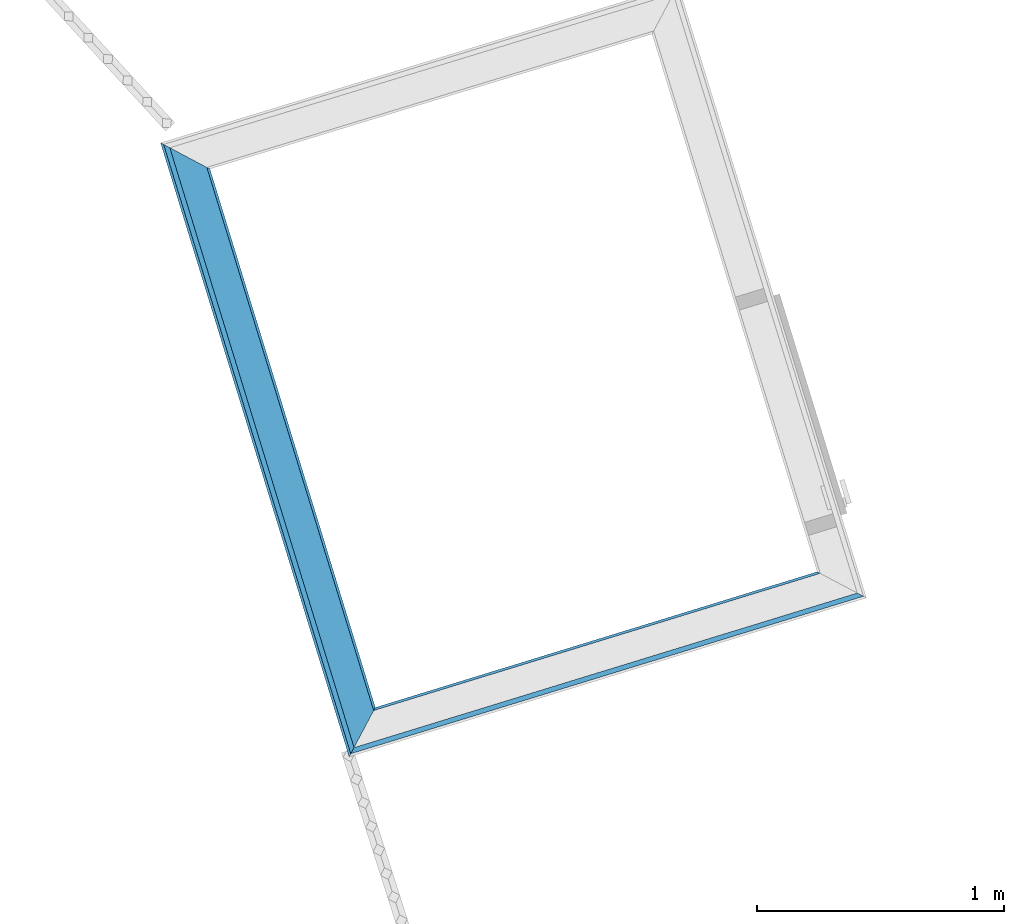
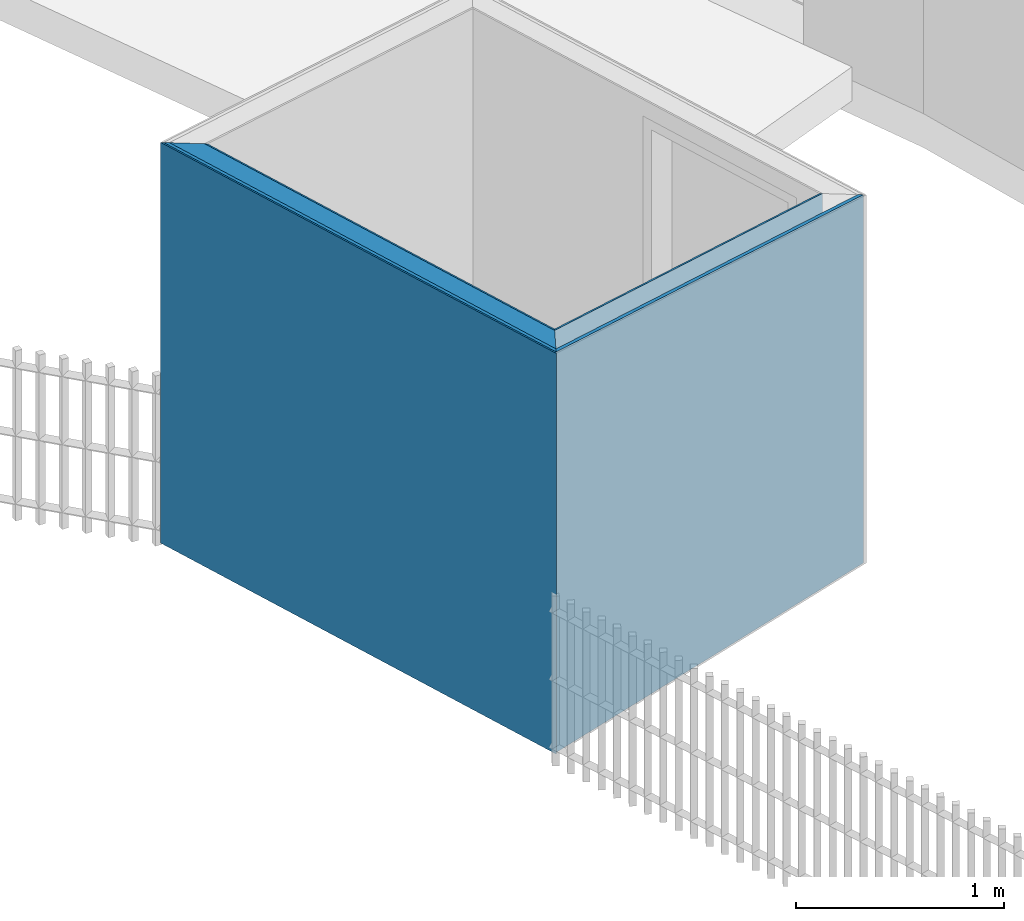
# One storey, part 129 of 195: 6 building element parts, 2 elements without a shape of their own.
"""IFC2X3 building model written with IfcOpenShell, lengths in metres."""

from ifc_helpers import new_model, entity, si_unit, converted_unit, derived_unit, money_unit, direction, frame, origin_with_axes, place, context, subcontext, project, spatial, polyline, outline, extrude, boolean, faceted_brep, material, type_object, element, aggregate, save


model = new_model("IFC2X3")

# Units and contexts
model_context = context("Model", 3, precision=1e-05, world=origin_with_axes(), true_north=direction((0.0, 1.0)))
body_context = subcontext(model_context, "Body", "Model", "MODEL_VIEW")
ifc_project = project(units=[si_unit("LENGTHUNIT", "METRE"), si_unit("AREAUNIT", "SQUARE_METRE"), si_unit("VOLUMEUNIT", "CUBIC_METRE"), converted_unit("PLANEANGLEUNIT", "DEGREE", entity("IfcPlaneAngleMeasure", 0.0174532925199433), si_unit("PLANEANGLEUNIT", "RADIAN"), dimensions=[0, 0, 0, 0, 0, 0, 0]), money_unit("CHF"), converted_unit("TIMEUNIT", "Year", entity("IfcTimeMeasure", 31557600.0), si_unit("TIMEUNIT", "SECOND"), dimensions=[0, 0, 1, 0, 0, 0, 0]), si_unit("MASSUNIT", "GRAM", prefix="KILO"), si_unit("THERMODYNAMICTEMPERATUREUNIT", "DEGREE_CELSIUS"), si_unit("LUMINOUSINTENSITYUNIT", "LUMEN"), si_unit("ENERGYUNIT", "JOULE", prefix="MEGA"), derived_unit("THERMALCONDUCTANCEUNIT", [(si_unit("POWERUNIT", "WATT"), 1), (si_unit("LENGTHUNIT", "METRE"), -1), (si_unit("THERMODYNAMICTEMPERATUREUNIT", "KELVIN"), -1)]), derived_unit("SPECIFICHEATCAPACITYUNIT", [(si_unit("ENERGYUNIT", "JOULE"), 1), (si_unit("MASSUNIT", "GRAM", prefix="KILO"), -1), (si_unit("THERMODYNAMICTEMPERATUREUNIT", "KELVIN"), -1)]), derived_unit("MASSDENSITYUNIT", [(si_unit("MASSUNIT", "GRAM", prefix="KILO"), 1), (si_unit("VOLUMEUNIT", "CUBIC_METRE"), -1)])], contexts=[model_context])

# Site, building, storey
site_placement = place(None, origin_with_axes())
site = spatial("IfcSite", under=ifc_project, at=site_placement, Name="Site", CompositionType="ELEMENT")
building_placement = place(site_placement, origin_with_axes())
building = spatial("IfcBuilding", under=site, at=building_placement, Name="Bâtiment", CompositionType="ELEMENT")
storey_placement = place(building_placement, origin_with_axes())
storey = spatial("IfcBuildingStorey", under=building, at=storey_placement, Name="rdc", CompositionType="ELEMENT", Elevation=0.0)

# Wall, building element parts
wall_type = type_object("IfcWallType", Name="1/Ossatur bois 160   non isol 160", PredefinedType="NOTDEFINED")
wall_1_placement = place(storey_placement, frame((9584.25368683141, -1050.212626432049, 57.7), z_axis=(0.0, 0.0, 1.0), x_axis=(-0.955928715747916, -0.2935988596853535, 0.0)))
wall_1 = element("IfcWall", 1, at=wall_1_placement, inside=storey, type_object=wall_type, Name="Mur-111")
ifc_material_1 = material(Name="Sans Trame 296962763")
building_element_part_1_placement = place(wall_1_placement, origin_with_axes())
building_element_part_1 = element("IfcBuildingElementPart", 2, at=building_element_part_1_placement, material=ifc_material_1, Name="Sans Trame 296962763", context=body_context, shape_type="CSG", body=[
    boolean("DIFFERENCE", boolean("DIFFERENCE", boolean("DIFFERENCE", boolean("DIFFERENCE", extrude(outline(polyline([(0.0, -0.160000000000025), (2.193108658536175, -0.160000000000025), (2.193108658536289, -0.1499999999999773), (0.0, -0.1500000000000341), (0.0, -0.160000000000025)])), origin_with_axes(), (0.0, 0.0, 1.0), 2.75), faceted_brep([(2.043108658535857, -0.1499999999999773, 0.0), (2.043108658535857, -0.1499999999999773, 2.342973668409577), (0.1499999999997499, -0.1500000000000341, 2.17734812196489), (0.1499999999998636, -0.1500000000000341, 0.0), (0.0, -0.1500000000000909, 0.0), (0.0, -0.1500000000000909, 2.75), (2.193108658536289, -0.1499999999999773, 2.75), (2.193108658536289, -0.1499999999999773, 0.0), (2.033108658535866, -0.1599999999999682, 0.0), (2.033108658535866, -0.1599999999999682, 2.342098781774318), (0.1599999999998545, -0.160000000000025, 2.178223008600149), (0.1599999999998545, -0.160000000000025, 0.0), (0.0, -0.160000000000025, 0.0), (0.0, -0.160000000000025, 2.75), (2.193108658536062, -0.160000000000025, 2.75), (2.193108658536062, -0.160000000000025, 0.0)], [[[0, 1, 2, 3, 4, 5, 6, 7]], [[8, 9, 1, 0]], [[2, 1, 9, 10]], [[3, 2, 10, 11]], [[3, 11, 12, 4]], [[5, 4, 12, 13]], [[5, 13, 14, 6]], [[14, 15, 7, 6]], [[8, 0, 7, 15]], [[9, 8, 15, 14, 13, 12, 11, 10]]])), faceted_brep([(2.163108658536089, -0.02999999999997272, 0.0), (2.163108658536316, -0.02999999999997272, 2.353472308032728), (0.02999999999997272, -0.0300000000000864, 2.166849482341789), (0.02999999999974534, -0.0300000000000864, 0.0), (0.0, -0.03000000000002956, 0.0), (0.0, -0.03000000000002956, 2.75), (2.193108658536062, -0.03000000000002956, 2.75), (2.193108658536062, -0.03000000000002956, 0.0), (2.043108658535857, -0.1499999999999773, 0.0), (2.043108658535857, -0.1499999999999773, 2.342973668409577), (0.1499999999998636, -0.1500000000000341, 2.17734812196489), (0.1499999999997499, -0.1499999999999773, 0.0), (0.0, -0.1500000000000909, 0.0), (0.0, -0.1500000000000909, 2.75), (2.193108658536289, -0.1499999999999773, 2.75), (2.193108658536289, -0.1499999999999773, 0.0)], [[[0, 1, 2, 3, 4, 5, 6, 7]], [[8, 9, 1, 0]], [[2, 1, 9, 10]], [[3, 2, 10, 11]], [[3, 11, 12, 4]], [[5, 4, 12, 13]], [[5, 13, 14, 6]], [[14, 15, 7, 6]], [[8, 0, 7, 15]], [[9, 8, 15, 14, 13, 12, 11, 10]]])), faceted_brep([(2.183108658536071, -0.009999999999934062, 0.0), (2.183108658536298, -0.009999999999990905, 2.355222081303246), (0.009999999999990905, -0.01000000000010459, 2.165099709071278), (0.009999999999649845, -0.01000000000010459, 0.0), (0.0, -0.01000000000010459, 0.0), (0.0, -0.01000000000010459, 2.75), (2.193108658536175, -0.01000000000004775, 2.75), (2.193108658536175, -0.01000000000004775, 0.0), (2.163108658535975, -0.02999999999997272, 0.0), (2.163108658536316, -0.02999999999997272, 2.353472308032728), (0.02999999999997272, -0.0300000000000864, 2.166849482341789), (0.02999999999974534, -0.0300000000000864, 0.0), (0.0, -0.03000000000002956, 0.0), (0.0, -0.03000000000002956, 2.75), (2.193108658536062, -0.03000000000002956, 2.75), (2.193108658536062, -0.03000000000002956, 0.0)], [[[0, 1, 2, 3, 4, 5, 6, 7]], [[8, 9, 1, 0]], [[2, 1, 9, 10]], [[3, 2, 10, 11]], [[3, 11, 12, 4]], [[5, 4, 12, 13]], [[5, 13, 14, 6]], [[14, 15, 7, 6]], [[8, 0, 7, 15]], [[9, 8, 15, 14, 13, 12, 11, 10]]])), faceted_brep([(2.193108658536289, 0.0, 2.356096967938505), (0.0, 0.0, 2.164224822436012), (0.0, 0.0, 2.75), (2.193108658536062, 0.0, 2.75), (2.183108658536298, -0.009999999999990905, 2.355222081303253), (0.009999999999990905, -0.01000000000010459, 2.165099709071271), (0.0, 0.0, 0.0), (0.0, -0.01000000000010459, 0.0), (0.0, -0.01000000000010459, 2.75), (2.193108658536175, -0.01000000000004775, 2.75), (2.193108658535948, 0.0, 0.0), (2.193108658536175, -0.01000000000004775, 0.0), (2.183108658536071, -0.01000000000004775, 0.0), (0.009999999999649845, -0.01000000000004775, 0.0)], [[[0, 1, 2, 3]], [[1, 0, 4, 5]], [[1, 6, 7, 8, 2]], [[2, 8, 9, 3]], [[10, 0, 3, 9, 11]], [[12, 4, 0, 10]], [[4, 12, 11, 9, 8, 7, 13, 5]], [[6, 1, 5, 13]], [[6, 13, 7]], [[12, 10, 11]]])),
])
ifc_material_2 = material(Name="Lame d'air 323202302")
building_element_part_2_placement = place(wall_1_placement, origin_with_axes())
building_element_part_2 = element("IfcBuildingElementPart", 3, at=building_element_part_2_placement, material=ifc_material_2, Name="Lame d'air 323202302", context=body_context, shape_type="CSG", body=[
    boolean("DIFFERENCE", boolean("DIFFERENCE", boolean("DIFFERENCE", boolean("DIFFERENCE", extrude(outline(polyline([(0.0, -0.03000000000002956), (2.193108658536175, -0.02999999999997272), (2.193108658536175, -0.009999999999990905), (0.0, -0.01000000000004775), (0.0, -0.03000000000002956)])), origin_with_axes(), (0.0, 0.0, 1.0), 2.75), faceted_brep([(2.043108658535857, -0.1499999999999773, 0.0), (2.043108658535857, -0.1499999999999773, 2.342973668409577), (0.1499999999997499, -0.1500000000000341, 2.17734812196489), (0.1499999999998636, -0.1500000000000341, 0.0), (0.0, -0.1500000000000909, 0.0), (0.0, -0.1500000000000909, 2.75), (2.193108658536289, -0.1499999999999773, 2.75), (2.193108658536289, -0.1499999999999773, 0.0), (2.033108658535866, -0.1599999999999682, 0.0), (2.033108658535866, -0.1599999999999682, 2.342098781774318), (0.1599999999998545, -0.160000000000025, 2.178223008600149), (0.1599999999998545, -0.160000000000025, 0.0), (0.0, -0.160000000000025, 0.0), (0.0, -0.160000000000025, 2.75), (2.193108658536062, -0.160000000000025, 2.75), (2.193108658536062, -0.160000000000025, 0.0)], [[[0, 1, 2, 3, 4, 5, 6, 7]], [[8, 9, 1, 0]], [[2, 1, 9, 10]], [[3, 2, 10, 11]], [[3, 11, 12, 4]], [[5, 4, 12, 13]], [[5, 13, 14, 6]], [[14, 15, 7, 6]], [[8, 0, 7, 15]], [[9, 8, 15, 14, 13, 12, 11, 10]]])), faceted_brep([(2.163108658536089, -0.02999999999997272, 0.0), (2.163108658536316, -0.02999999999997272, 2.353472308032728), (0.02999999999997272, -0.0300000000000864, 2.166849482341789), (0.02999999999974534, -0.0300000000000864, 0.0), (0.0, -0.03000000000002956, 0.0), (0.0, -0.03000000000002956, 2.75), (2.193108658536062, -0.03000000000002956, 2.75), (2.193108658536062, -0.03000000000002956, 0.0), (2.043108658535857, -0.1499999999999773, 0.0), (2.043108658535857, -0.1499999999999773, 2.342973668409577), (0.1499999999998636, -0.1500000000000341, 2.17734812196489), (0.1499999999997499, -0.1499999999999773, 0.0), (0.0, -0.1500000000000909, 0.0), (0.0, -0.1500000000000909, 2.75), (2.193108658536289, -0.1499999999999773, 2.75), (2.193108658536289, -0.1499999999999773, 0.0)], [[[0, 1, 2, 3, 4, 5, 6, 7]], [[8, 9, 1, 0]], [[2, 1, 9, 10]], [[3, 2, 10, 11]], [[3, 11, 12, 4]], [[5, 4, 12, 13]], [[5, 13, 14, 6]], [[14, 15, 7, 6]], [[8, 0, 7, 15]], [[9, 8, 15, 14, 13, 12, 11, 10]]])), faceted_brep([(2.183108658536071, -0.009999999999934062, 0.0), (2.183108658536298, -0.009999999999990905, 2.355222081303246), (0.009999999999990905, -0.01000000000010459, 2.165099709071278), (0.009999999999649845, -0.01000000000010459, 0.0), (0.0, -0.01000000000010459, 0.0), (0.0, -0.01000000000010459, 2.75), (2.193108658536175, -0.01000000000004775, 2.75), (2.193108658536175, -0.01000000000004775, 0.0), (2.163108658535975, -0.02999999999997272, 0.0), (2.163108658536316, -0.02999999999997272, 2.353472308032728), (0.02999999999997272, -0.0300000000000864, 2.166849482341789), (0.02999999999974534, -0.0300000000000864, 0.0), (0.0, -0.03000000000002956, 0.0), (0.0, -0.03000000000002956, 2.75), (2.193108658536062, -0.03000000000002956, 2.75), (2.193108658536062, -0.03000000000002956, 0.0)], [[[0, 1, 2, 3, 4, 5, 6, 7]], [[8, 9, 1, 0]], [[2, 1, 9, 10]], [[3, 2, 10, 11]], [[3, 11, 12, 4]], [[5, 4, 12, 13]], [[5, 13, 14, 6]], [[14, 15, 7, 6]], [[8, 0, 7, 15]], [[9, 8, 15, 14, 13, 12, 11, 10]]])), faceted_brep([(2.193108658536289, 0.0, 2.356096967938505), (0.0, 0.0, 2.164224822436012), (0.0, 0.0, 2.75), (2.193108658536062, 0.0, 2.75), (2.183108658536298, -0.009999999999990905, 2.355222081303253), (0.009999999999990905, -0.01000000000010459, 2.165099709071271), (0.0, 0.0, 0.0), (0.0, -0.01000000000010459, 0.0), (0.0, -0.01000000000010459, 2.75), (2.193108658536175, -0.01000000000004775, 2.75), (2.193108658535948, 0.0, 0.0), (2.193108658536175, -0.01000000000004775, 0.0), (2.183108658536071, -0.01000000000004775, 0.0), (0.009999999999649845, -0.01000000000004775, 0.0)], [[[0, 1, 2, 3]], [[1, 0, 4, 5]], [[1, 6, 7, 8, 2]], [[2, 8, 9, 3]], [[10, 0, 3, 9, 11]], [[12, 4, 0, 10]], [[4, 12, 11, 9, 8, 7, 13, 5]], [[6, 1, 5, 13]], [[6, 13, 7]], [[12, 10, 11]]])),
])
aggregate(wall_1, [building_element_part_1, building_element_part_2])

wall_2_placement = place(storey_placement, frame((9582.15723128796, -1050.856520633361, 57.7), z_axis=(0.0, 0.0, 1.0), x_axis=(-0.293598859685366, 0.9559287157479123, 0.0)))
wall_2 = element("IfcWall", 4, at=wall_2_placement, inside=storey, type_object=wall_type, Name="Mur-108")
building_element_part_3_placement = place(wall_2_placement, origin_with_axes())
building_element_part_3 = element("IfcBuildingElementPart", 5, at=building_element_part_3_placement, material=ifc_material_1, Name="Sans Trame 296962763", context=body_context, shape_type="CSG", body=[
    boolean("DIFFERENCE", boolean("DIFFERENCE", boolean("DIFFERENCE", boolean("DIFFERENCE", extrude(outline(polyline([(0.0, -0.1599999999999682), (2.602979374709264, -0.1599999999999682), (2.602979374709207, -0.1500000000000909), (0.0, -0.1500000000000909), (0.0, -0.1599999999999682)])), origin_with_axes(), (0.0, 0.0, 1.0), 2.75), faceted_brep([(2.442703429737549, -0.1600000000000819, 2.342098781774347), (2.442703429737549, -0.1600000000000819, 0.0), (2.602979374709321, -0.1599999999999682, 0.0), (2.602979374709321, -0.1599999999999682, 2.75), (0.0, -0.1599999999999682, 2.75), (0.0, -0.1599999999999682, 0.0), (0.1600000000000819, -0.1600000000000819, 0.0), (0.1600000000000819, -0.1600000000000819, 2.342098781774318), (2.452720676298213, -0.1500000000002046, 2.342973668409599), (2.452720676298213, -0.1500000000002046, 0.0), (2.602979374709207, -0.1500000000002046, 0.0), (2.602979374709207, -0.1500000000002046, 2.75), (0.0, -0.1500000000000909, 2.75), (0.0, -0.1500000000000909, 0.0), (0.1500000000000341, -0.1500000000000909, 0.0), (0.1500000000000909, -0.1500000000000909, 2.342973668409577)], [[[0, 1, 2, 3, 4, 5, 6, 7]], [[1, 0, 8, 9]], [[1, 9, 10, 2]], [[3, 2, 10, 11]], [[12, 4, 3, 11]], [[12, 13, 5, 4]], [[14, 6, 5, 13]], [[7, 6, 14, 15]], [[0, 7, 15, 8]], [[15, 14, 13, 12, 11, 10, 9, 8]]])), faceted_brep([(2.452720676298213, -0.1500000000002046, 2.342973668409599), (2.452720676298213, -0.1500000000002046, 0.0), (2.602979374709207, -0.1500000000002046, 0.0), (2.602979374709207, -0.1500000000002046, 2.75), (0.0, -0.1500000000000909, 2.75), (0.0, -0.1500000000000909, 0.0), (0.1499999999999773, -0.1499999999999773, 0.0), (0.1500000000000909, -0.1500000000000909, 2.342973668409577), (2.572927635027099, -0.0300000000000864, 2.353472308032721), (2.572927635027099, -0.0300000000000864, 0.0), (2.602979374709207, -0.02999999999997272, 0.0), (2.602979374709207, -0.02999999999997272, 2.75), (0.0, -0.02999999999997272, 2.75), (0.0, -0.02999999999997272, 0.0), (0.02999999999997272, -0.02999999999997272, 0.0), (0.03000000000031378, -0.0300000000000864, 2.353472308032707)], [[[0, 1, 2, 3, 4, 5, 6, 7]], [[1, 0, 8, 9]], [[1, 9, 10, 2]], [[3, 2, 10, 11]], [[12, 4, 3, 11]], [[12, 13, 5, 4]], [[14, 6, 5, 13]], [[7, 6, 14, 15]], [[0, 7, 15, 8]], [[15, 14, 13, 12, 11, 10, 9, 8]]])), faceted_brep([(2.572927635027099, -0.0300000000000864, 2.353472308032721), (2.572927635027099, -0.0300000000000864, 0.0), (2.602979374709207, -0.02999999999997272, 0.0), (2.602979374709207, -0.02999999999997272, 2.75), (0.0, -0.02999999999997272, 2.75), (0.0, -0.02999999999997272, 0.0), (0.02999999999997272, -0.02999999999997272, 0.0), (0.03000000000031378, -0.0300000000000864, 2.353472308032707), (2.592962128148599, -0.009999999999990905, 2.355222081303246), (2.592962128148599, -0.009999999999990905, 0.0), (2.602979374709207, -0.009999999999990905, 0.0), (2.602979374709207, -0.009999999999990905, 2.75), (0.0, -0.009999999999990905, 2.75), (0.0, -0.009999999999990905, 0.0), (0.009999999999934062, -0.009999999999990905, 0.0), (0.01000000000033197, -0.009999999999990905, 2.355222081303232)], [[[0, 1, 2, 3, 4, 5, 6, 7]], [[1, 0, 8, 9]], [[1, 9, 10, 2]], [[3, 2, 10, 11]], [[12, 4, 3, 11]], [[12, 13, 5, 4]], [[14, 6, 5, 13]], [[7, 6, 14, 15]], [[0, 7, 15, 8]], [[15, 14, 13, 12, 11, 10, 9, 8]]])), faceted_brep([(2.592962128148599, -0.009999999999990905, 2.355222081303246), (2.592962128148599, -0.009999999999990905, 0.0), (2.602979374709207, -0.009999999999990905, 0.0), (2.602979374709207, -0.009999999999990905, 2.75), (0.0, -0.009999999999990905, 2.75), (0.0, -0.009999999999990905, 0.0), (0.009999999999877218, -0.009999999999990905, 0.0), (0.01000000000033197, -0.009999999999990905, 2.355222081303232), (2.602979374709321, 0.0, 2.356096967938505), (2.602979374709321, 0.0, 0.0), (2.602979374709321, 0.0, 2.75), (0.0, 0.0, 2.75), (0.0, 0.0, 2.356096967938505), (0.0, 0.0, 0.0)], [[[0, 1, 2, 3, 4, 5, 6, 7]], [[1, 0, 8, 9]], [[1, 9, 2]], [[9, 8, 10, 3, 2]], [[11, 4, 3, 10]], [[12, 13, 5, 4, 11]], [[13, 6, 5]], [[7, 6, 13, 12]], [[0, 7, 12, 8]], [[8, 12, 11, 10]]])),
])
ifc_material_3 = material(Name="Lame d'air 275581439")
building_element_part_4_placement = place(wall_2_placement, origin_with_axes())
building_element_part_4 = element("IfcBuildingElementPart", 6, at=building_element_part_4_placement, material=ifc_material_3, Name="Lame d'air 275581439", context=body_context, shape_type="CSG", body=[
    boolean("DIFFERENCE", boolean("DIFFERENCE", boolean("DIFFERENCE", boolean("DIFFERENCE", extrude(outline(polyline([(0.0, -0.1500000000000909), (2.602979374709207, -0.1500000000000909), (2.60297937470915, -0.0300000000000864), (0.0, -0.0300000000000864), (0.0, -0.1500000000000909)])), origin_with_axes(), (0.0, 0.0, 1.0), 2.75), faceted_brep([(2.442703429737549, -0.1600000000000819, 2.342098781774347), (2.442703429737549, -0.1600000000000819, 0.0), (2.602979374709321, -0.1599999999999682, 0.0), (2.602979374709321, -0.1599999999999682, 2.75), (0.0, -0.1599999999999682, 2.75), (0.0, -0.1599999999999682, 0.0), (0.1600000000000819, -0.1600000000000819, 0.0), (0.1600000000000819, -0.1600000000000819, 2.342098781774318), (2.452720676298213, -0.1500000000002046, 2.342973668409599), (2.452720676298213, -0.1500000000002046, 0.0), (2.602979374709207, -0.1500000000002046, 0.0), (2.602979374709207, -0.1500000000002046, 2.75), (0.0, -0.1500000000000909, 2.75), (0.0, -0.1500000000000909, 0.0), (0.1500000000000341, -0.1500000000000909, 0.0), (0.1500000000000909, -0.1500000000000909, 2.342973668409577)], [[[0, 1, 2, 3, 4, 5, 6, 7]], [[1, 0, 8, 9]], [[1, 9, 10, 2]], [[3, 2, 10, 11]], [[12, 4, 3, 11]], [[12, 13, 5, 4]], [[14, 6, 5, 13]], [[7, 6, 14, 15]], [[0, 7, 15, 8]], [[15, 14, 13, 12, 11, 10, 9, 8]]])), faceted_brep([(2.452720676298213, -0.1500000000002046, 2.342973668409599), (2.452720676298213, -0.1500000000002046, 0.0), (2.602979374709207, -0.1500000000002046, 0.0), (2.602979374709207, -0.1500000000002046, 2.75), (0.0, -0.1500000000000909, 2.75), (0.0, -0.1500000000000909, 0.0), (0.1499999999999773, -0.1499999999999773, 0.0), (0.1500000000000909, -0.1500000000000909, 2.342973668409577), (2.572927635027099, -0.0300000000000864, 2.353472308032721), (2.572927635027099, -0.0300000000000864, 0.0), (2.602979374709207, -0.02999999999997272, 0.0), (2.602979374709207, -0.02999999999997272, 2.75), (0.0, -0.02999999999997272, 2.75), (0.0, -0.02999999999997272, 0.0), (0.02999999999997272, -0.02999999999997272, 0.0), (0.03000000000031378, -0.0300000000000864, 2.353472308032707)], [[[0, 1, 2, 3, 4, 5, 6, 7]], [[1, 0, 8, 9]], [[1, 9, 10, 2]], [[3, 2, 10, 11]], [[12, 4, 3, 11]], [[12, 13, 5, 4]], [[14, 6, 5, 13]], [[7, 6, 14, 15]], [[0, 7, 15, 8]], [[15, 14, 13, 12, 11, 10, 9, 8]]])), faceted_brep([(2.572927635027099, -0.0300000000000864, 2.353472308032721), (2.572927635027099, -0.0300000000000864, 0.0), (2.602979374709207, -0.02999999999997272, 0.0), (2.602979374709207, -0.02999999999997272, 2.75), (0.0, -0.02999999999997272, 2.75), (0.0, -0.02999999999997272, 0.0), (0.02999999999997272, -0.02999999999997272, 0.0), (0.03000000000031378, -0.0300000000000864, 2.353472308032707), (2.592962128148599, -0.009999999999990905, 2.355222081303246), (2.592962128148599, -0.009999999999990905, 0.0), (2.602979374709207, -0.009999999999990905, 0.0), (2.602979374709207, -0.009999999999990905, 2.75), (0.0, -0.009999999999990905, 2.75), (0.0, -0.009999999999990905, 0.0), (0.009999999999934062, -0.009999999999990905, 0.0), (0.01000000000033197, -0.009999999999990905, 2.355222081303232)], [[[0, 1, 2, 3, 4, 5, 6, 7]], [[1, 0, 8, 9]], [[1, 9, 10, 2]], [[3, 2, 10, 11]], [[12, 4, 3, 11]], [[12, 13, 5, 4]], [[14, 6, 5, 13]], [[7, 6, 14, 15]], [[0, 7, 15, 8]], [[15, 14, 13, 12, 11, 10, 9, 8]]])), faceted_brep([(2.592962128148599, -0.009999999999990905, 2.355222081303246), (2.592962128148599, -0.009999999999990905, 0.0), (2.602979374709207, -0.009999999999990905, 0.0), (2.602979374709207, -0.009999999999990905, 2.75), (0.0, -0.009999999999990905, 2.75), (0.0, -0.009999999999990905, 0.0), (0.009999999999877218, -0.009999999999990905, 0.0), (0.01000000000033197, -0.009999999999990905, 2.355222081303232), (2.602979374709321, 0.0, 2.356096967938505), (2.602979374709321, 0.0, 0.0), (2.602979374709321, 0.0, 2.75), (0.0, 0.0, 2.75), (0.0, 0.0, 2.356096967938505), (0.0, 0.0, 0.0)], [[[0, 1, 2, 3, 4, 5, 6, 7]], [[1, 0, 8, 9]], [[1, 9, 2]], [[9, 8, 10, 3, 2]], [[11, 4, 3, 10]], [[12, 13, 5, 4, 11]], [[13, 6, 5]], [[7, 6, 13, 12]], [[0, 7, 12, 8]], [[8, 12, 11, 10]]])),
])
ifc_material_4 = material(Name="Hachure solide 323202122")
building_element_part_5_placement = place(wall_2_placement, origin_with_axes())
building_element_part_5 = element("IfcBuildingElementPart", 7, at=building_element_part_5_placement, material=ifc_material_4, Name="Hachure solide 323202122", context=body_context, shape_type="CSG", body=[
    boolean("DIFFERENCE", boolean("DIFFERENCE", boolean("DIFFERENCE", boolean("DIFFERENCE", extrude(outline(polyline([(0.0, -0.009999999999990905), (2.602979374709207, -0.009999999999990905), (2.602979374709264, 0.0), (0.0, 0.0), (0.0, -0.009999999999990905)])), origin_with_axes(), (0.0, 0.0, 1.0), 2.75), faceted_brep([(2.442703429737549, -0.1600000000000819, 2.342098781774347), (2.442703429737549, -0.1600000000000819, 0.0), (2.602979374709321, -0.1599999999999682, 0.0), (2.602979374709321, -0.1599999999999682, 2.75), (0.0, -0.1599999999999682, 2.75), (0.0, -0.1599999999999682, 0.0), (0.1600000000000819, -0.1600000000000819, 0.0), (0.1600000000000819, -0.1600000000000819, 2.342098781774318), (2.452720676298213, -0.1500000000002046, 2.342973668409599), (2.452720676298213, -0.1500000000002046, 0.0), (2.602979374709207, -0.1500000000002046, 0.0), (2.602979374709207, -0.1500000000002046, 2.75), (0.0, -0.1500000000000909, 2.75), (0.0, -0.1500000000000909, 0.0), (0.1500000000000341, -0.1500000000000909, 0.0), (0.1500000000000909, -0.1500000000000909, 2.342973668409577)], [[[0, 1, 2, 3, 4, 5, 6, 7]], [[1, 0, 8, 9]], [[1, 9, 10, 2]], [[3, 2, 10, 11]], [[12, 4, 3, 11]], [[12, 13, 5, 4]], [[14, 6, 5, 13]], [[7, 6, 14, 15]], [[0, 7, 15, 8]], [[15, 14, 13, 12, 11, 10, 9, 8]]])), faceted_brep([(2.452720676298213, -0.1500000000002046, 2.342973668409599), (2.452720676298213, -0.1500000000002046, 0.0), (2.602979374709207, -0.1500000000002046, 0.0), (2.602979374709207, -0.1500000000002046, 2.75), (0.0, -0.1500000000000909, 2.75), (0.0, -0.1500000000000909, 0.0), (0.1499999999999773, -0.1499999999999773, 0.0), (0.1500000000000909, -0.1500000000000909, 2.342973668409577), (2.572927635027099, -0.0300000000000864, 2.353472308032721), (2.572927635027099, -0.0300000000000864, 0.0), (2.602979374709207, -0.02999999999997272, 0.0), (2.602979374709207, -0.02999999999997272, 2.75), (0.0, -0.02999999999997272, 2.75), (0.0, -0.02999999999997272, 0.0), (0.02999999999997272, -0.02999999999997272, 0.0), (0.03000000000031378, -0.0300000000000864, 2.353472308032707)], [[[0, 1, 2, 3, 4, 5, 6, 7]], [[1, 0, 8, 9]], [[1, 9, 10, 2]], [[3, 2, 10, 11]], [[12, 4, 3, 11]], [[12, 13, 5, 4]], [[14, 6, 5, 13]], [[7, 6, 14, 15]], [[0, 7, 15, 8]], [[15, 14, 13, 12, 11, 10, 9, 8]]])), faceted_brep([(2.572927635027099, -0.0300000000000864, 2.353472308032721), (2.572927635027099, -0.0300000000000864, 0.0), (2.602979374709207, -0.02999999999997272, 0.0), (2.602979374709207, -0.02999999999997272, 2.75), (0.0, -0.02999999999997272, 2.75), (0.0, -0.02999999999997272, 0.0), (0.02999999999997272, -0.02999999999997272, 0.0), (0.03000000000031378, -0.0300000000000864, 2.353472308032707), (2.592962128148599, -0.009999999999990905, 2.355222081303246), (2.592962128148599, -0.009999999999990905, 0.0), (2.602979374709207, -0.009999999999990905, 0.0), (2.602979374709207, -0.009999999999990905, 2.75), (0.0, -0.009999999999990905, 2.75), (0.0, -0.009999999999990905, 0.0), (0.009999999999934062, -0.009999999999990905, 0.0), (0.01000000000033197, -0.009999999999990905, 2.355222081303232)], [[[0, 1, 2, 3, 4, 5, 6, 7]], [[1, 0, 8, 9]], [[1, 9, 10, 2]], [[3, 2, 10, 11]], [[12, 4, 3, 11]], [[12, 13, 5, 4]], [[14, 6, 5, 13]], [[7, 6, 14, 15]], [[0, 7, 15, 8]], [[15, 14, 13, 12, 11, 10, 9, 8]]])), faceted_brep([(2.592962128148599, -0.009999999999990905, 2.355222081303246), (2.592962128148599, -0.009999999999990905, 0.0), (2.602979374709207, -0.009999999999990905, 0.0), (2.602979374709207, -0.009999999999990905, 2.75), (0.0, -0.009999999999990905, 2.75), (0.0, -0.009999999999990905, 0.0), (0.009999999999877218, -0.009999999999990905, 0.0), (0.01000000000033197, -0.009999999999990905, 2.355222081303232), (2.602979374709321, 0.0, 2.356096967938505), (2.602979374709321, 0.0, 0.0), (2.602979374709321, 0.0, 2.75), (0.0, 0.0, 2.75), (0.0, 0.0, 2.356096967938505), (0.0, 0.0, 0.0)], [[[0, 1, 2, 3, 4, 5, 6, 7]], [[1, 0, 8, 9]], [[1, 9, 2]], [[9, 8, 10, 3, 2]], [[11, 4, 3, 10]], [[12, 13, 5, 4, 11]], [[13, 6, 5]], [[7, 6, 13, 12]], [[0, 7, 12, 8]], [[8, 12, 11, 10]]])),
])
building_element_part_6_placement = place(wall_2_placement, origin_with_axes())
building_element_part_6 = element("IfcBuildingElementPart", 8, at=building_element_part_6_placement, material=ifc_material_2, Name="Lame d'air 323202302", context=body_context, shape_type="CSG", body=[
    boolean("DIFFERENCE", boolean("DIFFERENCE", boolean("DIFFERENCE", boolean("DIFFERENCE", extrude(outline(polyline([(0.0, -0.0300000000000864), (2.60297937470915, -0.0300000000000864), (2.602979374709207, -0.009999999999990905), (0.0, -0.009999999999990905), (0.0, -0.0300000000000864)])), origin_with_axes(), (0.0, 0.0, 1.0), 2.75), faceted_brep([(2.442703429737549, -0.1600000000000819, 2.342098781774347), (2.442703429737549, -0.1600000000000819, 0.0), (2.602979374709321, -0.1599999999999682, 0.0), (2.602979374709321, -0.1599999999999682, 2.75), (0.0, -0.1599999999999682, 2.75), (0.0, -0.1599999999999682, 0.0), (0.1600000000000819, -0.1600000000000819, 0.0), (0.1600000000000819, -0.1600000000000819, 2.342098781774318), (2.452720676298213, -0.1500000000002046, 2.342973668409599), (2.452720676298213, -0.1500000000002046, 0.0), (2.602979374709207, -0.1500000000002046, 0.0), (2.602979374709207, -0.1500000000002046, 2.75), (0.0, -0.1500000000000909, 2.75), (0.0, -0.1500000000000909, 0.0), (0.1500000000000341, -0.1500000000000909, 0.0), (0.1500000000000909, -0.1500000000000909, 2.342973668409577)], [[[0, 1, 2, 3, 4, 5, 6, 7]], [[1, 0, 8, 9]], [[1, 9, 10, 2]], [[3, 2, 10, 11]], [[12, 4, 3, 11]], [[12, 13, 5, 4]], [[14, 6, 5, 13]], [[7, 6, 14, 15]], [[0, 7, 15, 8]], [[15, 14, 13, 12, 11, 10, 9, 8]]])), faceted_brep([(2.452720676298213, -0.1500000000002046, 2.342973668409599), (2.452720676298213, -0.1500000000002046, 0.0), (2.602979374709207, -0.1500000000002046, 0.0), (2.602979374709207, -0.1500000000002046, 2.75), (0.0, -0.1500000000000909, 2.75), (0.0, -0.1500000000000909, 0.0), (0.1499999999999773, -0.1499999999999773, 0.0), (0.1500000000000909, -0.1500000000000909, 2.342973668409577), (2.572927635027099, -0.0300000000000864, 2.353472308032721), (2.572927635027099, -0.0300000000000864, 0.0), (2.602979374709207, -0.02999999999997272, 0.0), (2.602979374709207, -0.02999999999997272, 2.75), (0.0, -0.02999999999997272, 2.75), (0.0, -0.02999999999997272, 0.0), (0.02999999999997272, -0.02999999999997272, 0.0), (0.03000000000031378, -0.0300000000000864, 2.353472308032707)], [[[0, 1, 2, 3, 4, 5, 6, 7]], [[1, 0, 8, 9]], [[1, 9, 10, 2]], [[3, 2, 10, 11]], [[12, 4, 3, 11]], [[12, 13, 5, 4]], [[14, 6, 5, 13]], [[7, 6, 14, 15]], [[0, 7, 15, 8]], [[15, 14, 13, 12, 11, 10, 9, 8]]])), faceted_brep([(2.572927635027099, -0.0300000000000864, 2.353472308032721), (2.572927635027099, -0.0300000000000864, 0.0), (2.602979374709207, -0.02999999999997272, 0.0), (2.602979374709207, -0.02999999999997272, 2.75), (0.0, -0.02999999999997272, 2.75), (0.0, -0.02999999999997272, 0.0), (0.02999999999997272, -0.02999999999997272, 0.0), (0.03000000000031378, -0.0300000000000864, 2.353472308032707), (2.592962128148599, -0.009999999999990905, 2.355222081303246), (2.592962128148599, -0.009999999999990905, 0.0), (2.602979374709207, -0.009999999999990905, 0.0), (2.602979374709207, -0.009999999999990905, 2.75), (0.0, -0.009999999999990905, 2.75), (0.0, -0.009999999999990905, 0.0), (0.009999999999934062, -0.009999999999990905, 0.0), (0.01000000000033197, -0.009999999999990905, 2.355222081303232)], [[[0, 1, 2, 3, 4, 5, 6, 7]], [[1, 0, 8, 9]], [[1, 9, 10, 2]], [[3, 2, 10, 11]], [[12, 4, 3, 11]], [[12, 13, 5, 4]], [[14, 6, 5, 13]], [[7, 6, 14, 15]], [[0, 7, 15, 8]], [[15, 14, 13, 12, 11, 10, 9, 8]]])), faceted_brep([(2.592962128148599, -0.009999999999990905, 2.355222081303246), (2.592962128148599, -0.009999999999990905, 0.0), (2.602979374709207, -0.009999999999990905, 0.0), (2.602979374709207, -0.009999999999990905, 2.75), (0.0, -0.009999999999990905, 2.75), (0.0, -0.009999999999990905, 0.0), (0.009999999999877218, -0.009999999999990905, 0.0), (0.01000000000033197, -0.009999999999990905, 2.355222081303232), (2.602979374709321, 0.0, 2.356096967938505), (2.602979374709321, 0.0, 0.0), (2.602979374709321, 0.0, 2.75), (0.0, 0.0, 2.75), (0.0, 0.0, 2.356096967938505), (0.0, 0.0, 0.0)], [[[0, 1, 2, 3, 4, 5, 6, 7]], [[1, 0, 8, 9]], [[1, 9, 2]], [[9, 8, 10, 3, 2]], [[11, 4, 3, 10]], [[12, 13, 5, 4, 11]], [[13, 6, 5]], [[7, 6, 13, 12]], [[0, 7, 12, 8]], [[8, 12, 11, 10]]])),
])
aggregate(wall_2, [building_element_part_3, building_element_part_4, building_element_part_5, building_element_part_6])

save(model, "model.ifc")
